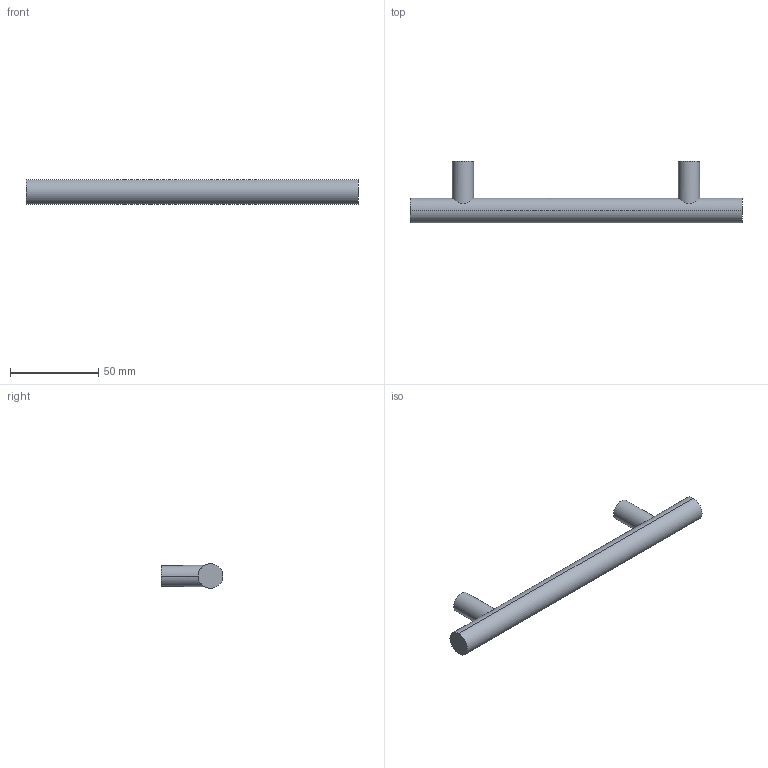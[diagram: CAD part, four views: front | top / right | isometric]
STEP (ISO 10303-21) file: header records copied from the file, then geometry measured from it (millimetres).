
FILE_DESCRIPTION( ( '' ), '1' );
FILE_NAME( 'D:/1.AUTOCAD EXPORT/Group 10/sheet_10_1/9071046.stp', '2013-10-21T08:29:17', ( '' ), ( '' ), ' ', ' ', ' ' );
FILE_SCHEMA( ( 'automotive_design' ) );
Length unit declared in the file: millimetre
Products named in the file (1): 1
Bounding box: 188 x 35 x 14 mm (x, y, z)
Volume: 33552.4 mm3; surface area: 10548.4 mm2
Topology: 1 solids, 1 shells, 16 faces, 32 edges, 22 vertices
Faces by surface type: cylinder 10, plane 6
Entity records: 972 total; most frequent: CARTESIAN_POINT 205, DIRECTION 76, STYLED_ITEM 71, PRESENTATION_STYLE_ASSIGNMENT 71, COLOUR_RGB 71, ORIENTED_EDGE 64, AXIS2_PLACEMENT_3D 33, EDGE_CURVE 32
